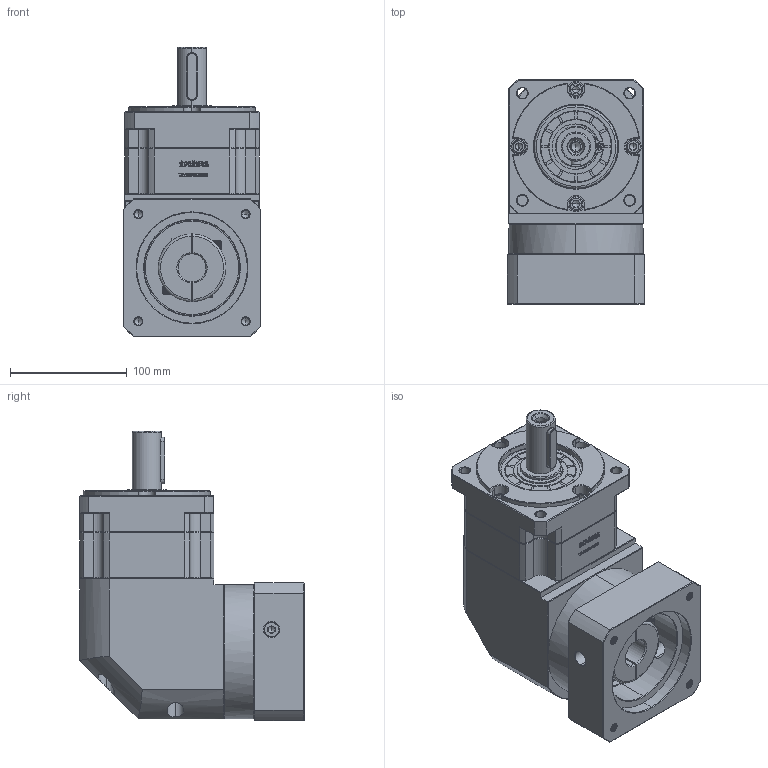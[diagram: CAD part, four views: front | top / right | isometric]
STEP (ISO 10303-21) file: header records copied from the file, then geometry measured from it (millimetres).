
FILE_DESCRIPTION (( 'STEP AP214' ), '1' );
FILE_NAME ('ZBR115A-D25-L1-24-95-130-M8.step', '2023-03-03T04:55:51', ( '' ), ( 'Microsoft' ), 'SwSTEP 2.0', 'SolidWorks 2016', '' );
FILE_SCHEMA (( 'AUTOMOTIVE_DESIGN' ));
Length unit declared in the file: millimetre
Products named in the file (1): ZBR115A-D25-L1-24-95-130-M8
Bounding box: 118 x 192.4 x 248 mm (x, y, z)
Volume: 2957629.9 mm3; surface area: 246464.4 mm2
Topology: 6 solids, 6 shells, 2981 faces, 7921 edges, 5086 vertices
Faces by surface type: plane 1559, bspline 606, cylinder 439, cone 369, torus 8
Entity records: 161772 total; most frequent: CARTESIAN_POINT 59752, ORIENTED_EDGE 15782, DIRECTION 11953, EDGE_CURVE 7891, VECTOR 5307, LINE 5307, VERTEX_POINT 5086, AXIS2_PLACEMENT_3D 3323
